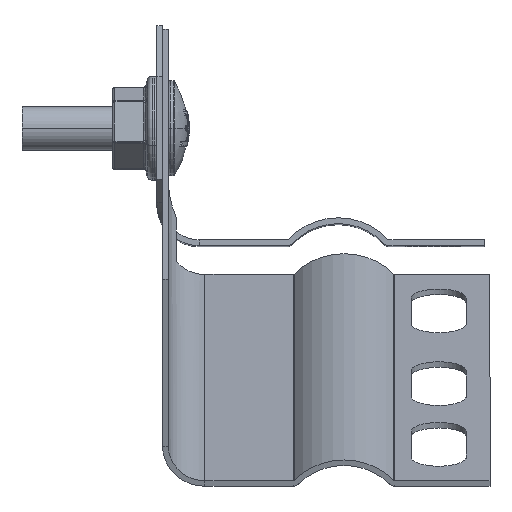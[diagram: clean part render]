
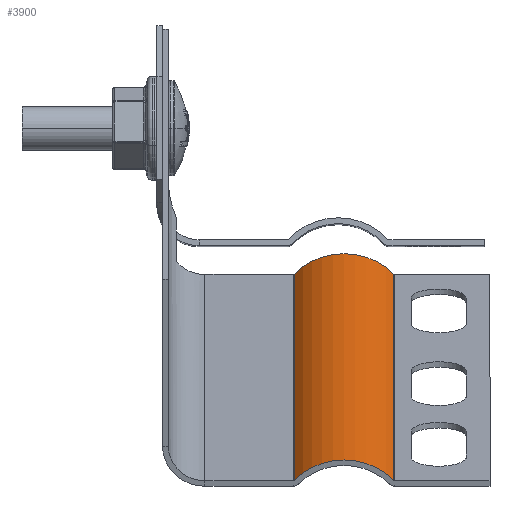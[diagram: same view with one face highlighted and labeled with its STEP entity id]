
A CAD part, top view. The second image highlights one B-rep face of the part: STEP entity #3900.
In plain terms, the highlighted cylindrical face has radius 9.342 mm (diameter 18.683 mm), a partial arc.
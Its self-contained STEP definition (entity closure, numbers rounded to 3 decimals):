
#80 = FACE_OUTER_BOUND ( 'NONE', #5352, .T. ) ;
#186 = DIRECTION ( 'NONE',  ( 1., 0., 0. ) ) ;
#249 = CARTESIAN_POINT ( 'NONE',  ( 85., -29.137, 17.994 ) ) ;
#266 = LINE ( 'NONE', #8028, #1438 ) ;
#372 = CARTESIAN_POINT ( 'NONE',  ( 85., -29.137, 31.595 ) ) ;
#480 = VERTEX_POINT ( 'NONE', #372 ) ;
#1025 = DIRECTION ( 'NONE',  ( 1., 0., 0. ) ) ;
#1383 = DIRECTION ( 'NONE',  ( -1., 0., 0. ) ) ;
#1438 = VECTOR ( 'NONE', #1025, 1000. ) ;
#1656 = CARTESIAN_POINT ( 'NONE',  ( 85., -29.137, 17.994 ) ) ;
#2034 = DIRECTION ( 'NONE',  ( 1., 0., 0. ) ) ;
#2089 = CIRCLE ( 'NONE', #2225, 9.342 ) ;
#2204 = DIRECTION ( 'NONE',  ( 0., 0., 1. ) ) ;
#2225 = AXIS2_PLACEMENT_3D ( 'NONE', #6598, #186, #2204 ) ;
#2246 = EDGE_CURVE ( 'NONE', #5137, #480, #5914, .T. ) ;
#2505 = ORIENTED_EDGE ( 'NONE', *, *, #5963, .T. ) ;
#3710 = VECTOR ( 'NONE', #4125, 1000. ) ;
#3770 = AXIS2_PLACEMENT_3D ( 'NONE', #4496, #2034, #7056 ) ;
#3900 = ADVANCED_FACE ( 'NONE', ( #80 ), #3942, .T. ) ;
#3942 = CYLINDRICAL_SURFACE ( 'NONE', #4852, 9.342 ) ;
#3987 = ORIENTED_EDGE ( 'NONE', *, *, #2246, .F. ) ;
#4125 = DIRECTION ( 'NONE',  ( -1., 0., 0. ) ) ;
#4160 = VERTEX_POINT ( 'NONE', #8007 ) ;
#4496 = CARTESIAN_POINT ( 'NONE',  ( 85., -35.542, 24.794 ) ) ;
#4597 = ORIENTED_EDGE ( 'NONE', *, *, #7819, .T. ) ;
#4852 = AXIS2_PLACEMENT_3D ( 'NONE', #7122, #1383, #5736 ) ;
#5137 = VERTEX_POINT ( 'NONE', #249 ) ;
#5160 = CARTESIAN_POINT ( 'NONE',  ( 0., -29.137, 31.595 ) ) ;
#5352 = EDGE_LOOP ( 'NONE', ( #2505, #4597, #3987, #6443 ) ) ;
#5736 = DIRECTION ( 'NONE',  ( 0., 0., -1. ) ) ;
#5914 = CIRCLE ( 'NONE', #3770, 9.342 ) ;
#5963 = EDGE_CURVE ( 'NONE', #4160, #7202, #2089, .T. ) ;
#6077 = EDGE_CURVE ( 'NONE', #5137, #4160, #7438, .T. ) ;
#6443 = ORIENTED_EDGE ( 'NONE', *, *, #6077, .T. ) ;
#6598 = CARTESIAN_POINT ( 'NONE',  ( 0., -35.542, 24.794 ) ) ;
#7056 = DIRECTION ( 'NONE',  ( 0., 0., 1. ) ) ;
#7122 = CARTESIAN_POINT ( 'NONE',  ( 85., -35.542, 24.794 ) ) ;
#7202 = VERTEX_POINT ( 'NONE', #5160 ) ;
#7438 = LINE ( 'NONE', #1656, #3710 ) ;
#7819 = EDGE_CURVE ( 'NONE', #7202, #480, #266, .T. ) ;
#8007 = CARTESIAN_POINT ( 'NONE',  ( 0., -29.137, 17.994 ) ) ;
#8028 = CARTESIAN_POINT ( 'NONE',  ( 85., -29.137, 31.595 ) ) ;
